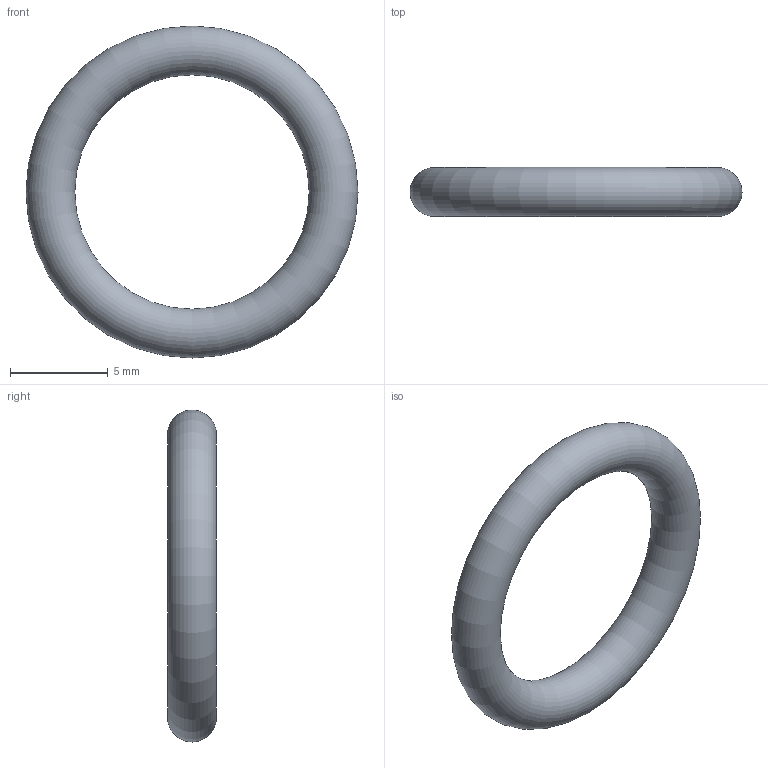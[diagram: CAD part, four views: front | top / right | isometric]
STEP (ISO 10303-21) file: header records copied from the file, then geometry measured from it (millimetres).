
FILE_DESCRIPTION( ( 'STEP AP203' ), '1' );
FILE_NAME( 'C:/Temp/Ganter_Step_05_03_2020/data/3_5/or638/O-Ring OR638-12.00-2.50-70.stp', '2020-03-12T13:44:27', ( 'License CC BY-ND 4.0' ), ( 'CADENAS' ), ' ', 'PARTsolutions', ' ' );
FILE_SCHEMA( ( 'CONFIG_CONTROL_DESIGN' ) );
Length unit declared in the file: millimetre
Products named in the file (1): _O-Ring OR638-12.00-2.50-70
Bounding box: 17 x 2.5 x 17 mm (x, y, z)
Volume: 223.6 mm3; surface area: 357.8 mm2
Topology: 1 solids, 1 shells, 1 faces, 2 edges, 1 vertices
Faces by surface type: torus 1
Entity records: 62 total; most frequent: CC_DESIGN_PERSON_AND_ORGANIZATION_ASSIGNMENT 5, PERSON_AND_ORGANIZATION_ROLE 4, DIRECTION 4, CARTESIAN_POINT 3, DATE_TIME_ROLE 2, CC_DESIGN_DATE_AND_TIME_ASSIGNMENT 2, AXIS2_PLACEMENT_3D 2, DIMENSIONAL_EXPONENTS 2
